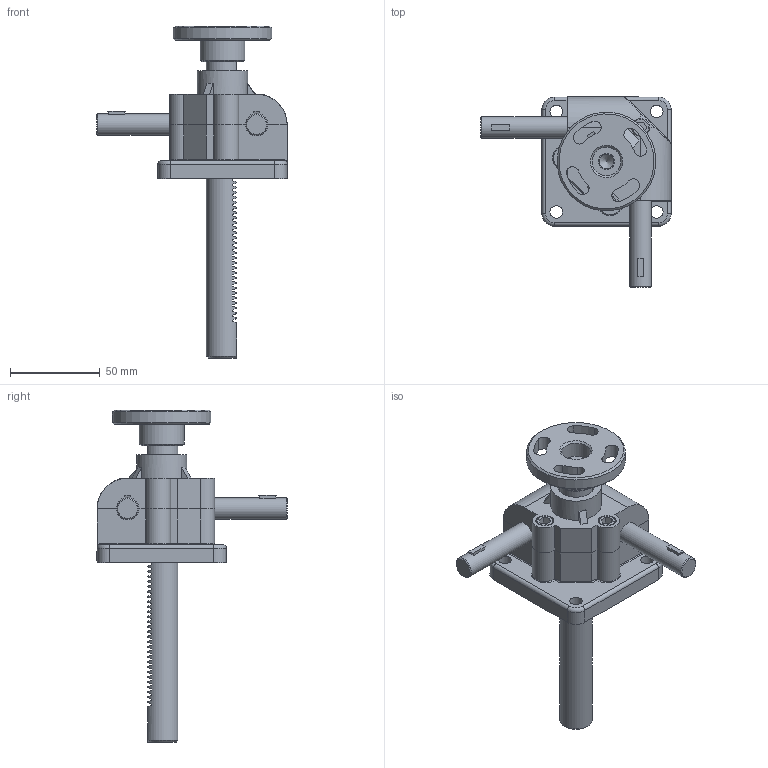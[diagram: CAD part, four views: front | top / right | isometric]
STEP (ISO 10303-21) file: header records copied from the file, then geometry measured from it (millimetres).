
FILE_DESCRIPTION(('STEP AP203'),'1');
FILE_NAME('SP1-300F-100ST.stp','2016-08-05T05:33:36',(' '),(' '),'Spatial InterOp 3D',' ',' ');
FILE_SCHEMA(('CONFIG_CONTROL_DESIGN'));
Length unit declared in the file: millimetre
Products named in the file (14): SP1-300F-100ST; Rack Gear(SP-300); Flange; Body-Part; Gear Box(Upper); Gear Box(Lower); RJ05-4SCJ-610X600-100ST_CAP; LABEL-B.1; ___; 파트18; __ 
Assembly tree (17 placements, depth 5):
  SP1-300F-100ST
    Rack Gear(SP-300)
    Flange
    Body-Part
      (unnamed)  x2
      (unnamed)  x3
      (unnamed)  x2
      Gear Box(Upper)
      Gear Box(Lower)
    __ 
      ___
        RJ05-4SCJ-610X600-100ST_CAP
          LABEL-B.1
        파트18
Bounding box: 106 x 106.18 x 185 mm (x, y, z)
Volume: 149287.2 mm3; surface area: 72483.7 mm2
Topology: 20 solids, 20 shells, 2543 faces, 7192 edges, 4673 vertices
Faces by surface type: plane 2195, cylinder 248, bspline 42, torus 26, cone 25, sphere 7
Full cylindrical faces by diameter (mm): 6 x6, 7 x7, 8 x1, 9 x1, 10 x6, 12 x2, 16 x1, 18 x1, 18.5 x2, 20.3 x4, 21.3 x2, 25 x1, 28 x1, 55 x1
Entity records: 83808 total; most frequent: CARTESIAN_POINT 18378, ORIENTED_EDGE 14008, DIRECTION 12516, EDGE_CURVE 7004, LINE 6144, VECTOR 6144, VERTEX_POINT 4610, AXIS2_PLACEMENT_3D 3186
